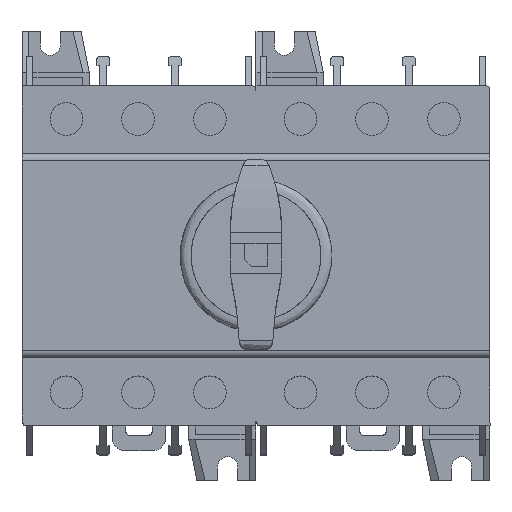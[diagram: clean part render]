
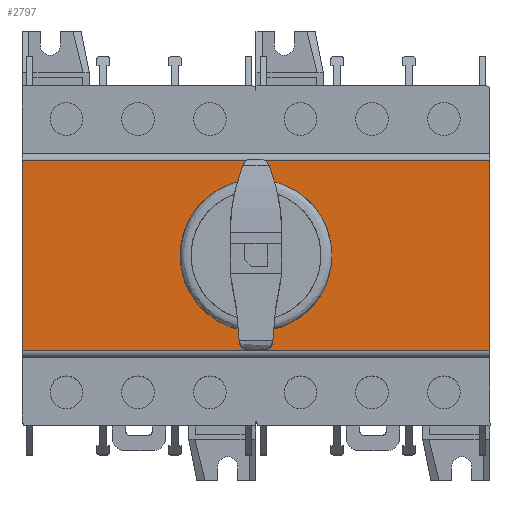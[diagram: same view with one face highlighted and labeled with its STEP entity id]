
A CAD part, top view. The second image highlights one B-rep face of the part: STEP entity #2797.
In plain terms, the highlighted planar face has unit normal (0, 0, 1).
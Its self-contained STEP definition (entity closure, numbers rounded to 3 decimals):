
#25 = EDGE_LOOP ( 'NONE', ( #11486 ) ) ;
#97 = EDGE_CURVE ( 'NONE', #11937, #16992, #855, .T. ) ;
#464 = EDGE_CURVE ( 'NONE', #16565, #7755, #15677, .T. ) ;
#855 = LINE ( 'NONE', #2698, #16375 ) ;
#920 = DIRECTION ( 'NONE',  ( 1., 0., 0. ) ) ;
#1339 = VECTOR ( 'NONE', #16490, 1000. ) ;
#1385 = DIRECTION ( 'NONE',  ( -1., 0., 0. ) ) ;
#1469 = CARTESIAN_POINT ( 'NONE',  ( 103.595, 21.25, 73.4 ) ) ;
#1744 = EDGE_CURVE ( 'NONE', #2784, #2784, #14122, .T. ) ;
#1813 = EDGE_CURVE ( 'NONE', #16992, #7755, #17020, .T. ) ;
#1922 = AXIS2_PLACEMENT_3D ( 'NONE', #3865, #6822, #920 ) ;
#2198 = ORIENTED_EDGE ( 'NONE', *, *, #97, .F. ) ;
#2698 = CARTESIAN_POINT ( 'NONE',  ( 103.595, -21.25, 73.4 ) ) ;
#2784 = VERTEX_POINT ( 'NONE', #8287 ) ;
#2797 = ADVANCED_FACE ( 'NONE', ( #13693, #12053 ), #15783, .T. ) ;
#2936 = CARTESIAN_POINT ( 'NONE',  ( -33.829, -16.949, 73.4 ) ) ;
#2999 = CARTESIAN_POINT ( 'NONE',  ( 0., 16.881, 73.4 ) ) ;
#3865 = CARTESIAN_POINT ( 'NONE',  ( 103.595, 0., 73.4 ) ) ;
#4113 = CARTESIAN_POINT ( 'NONE',  ( -52.2, -21.25, 73.4 ) ) ;
#4149 = DIRECTION ( 'NONE',  ( -1., 0., 0. ) ) ;
#4428 = CARTESIAN_POINT ( 'NONE',  ( 0., -16.949, 73.4 ) ) ;
#4458 = CARTESIAN_POINT ( 'NONE',  ( 52.2, 0., 73.4 ) ) ;
#4528 = CARTESIAN_POINT ( 'NONE',  ( 52.2, 21.25, 73.4 ) ) ;
#5325 = LINE ( 'NONE', #4458, #1339 ) ;
#5740 = ORIENTED_EDGE ( 'NONE', *, *, #1813, .F. ) ;
#6822 = DIRECTION ( 'NONE',  ( 0., 0., 1. ) ) ;
#6945 = CARTESIAN_POINT ( 'NONE',  ( 52.2, -21.25, 73.4 ) ) ;
#7441 = ORIENTED_EDGE ( 'NONE', *, *, #10853, .F. ) ;
#7755 = VERTEX_POINT ( 'NONE', #15204 ) ;
#8158 = CARTESIAN_POINT ( 'NONE',  ( -52.2, 0., 73.4 ) ) ;
#8287 = CARTESIAN_POINT ( 'NONE',  ( 0., 16.881, 73.4 ) ) ;
#8584 = VECTOR ( 'NONE', #4149, 1000. ) ;
#10415 = CARTESIAN_POINT ( 'NONE',  ( -33.829, 16.881, 73.4 ) ) ;
#10479 = CARTESIAN_POINT ( 'NONE',  ( 33.829, -16.949, 73.4 ) ) ;
#10853 = EDGE_CURVE ( 'NONE', #16565, #11937, #5325, .T. ) ;
#11486 = ORIENTED_EDGE ( 'NONE', *, *, #1744, .F. ) ;
#11937 = VERTEX_POINT ( 'NONE', #6945 ) ;
#12053 = FACE_OUTER_BOUND ( 'NONE', #17826, .T. ) ;
#12567 = VECTOR ( 'NONE', #15615, 1000. ) ;
#13693 = FACE_BOUND ( 'NONE', #25, .T. ) ;
#13703 = ORIENTED_EDGE ( 'NONE', *, *, #464, .T. ) ;
#14122 =( BOUNDED_CURVE ( )  B_SPLINE_CURVE ( 3, ( #17920, #10415, #2936, #4428, #10479, #14969, #2999 ),
 .UNSPECIFIED., .T., .F. ) 
 B_SPLINE_CURVE_WITH_KNOTS ( ( 4, 3, 4 ),
 ( 0., 3.142, 6.283 ),
 .UNSPECIFIED. ) 
 CURVE ( )  GEOMETRIC_REPRESENTATION_ITEM ( )  RATIONAL_B_SPLINE_CURVE ( ( 1., 0.333, 0.333, 1., 0.333, 0.333, 1. ) ) 
 REPRESENTATION_ITEM ( '' )  );
#14969 = CARTESIAN_POINT ( 'NONE',  ( 33.829, 16.881, 73.4 ) ) ;
#15204 = CARTESIAN_POINT ( 'NONE',  ( -52.2, 21.25, 73.4 ) ) ;
#15615 = DIRECTION ( 'NONE',  ( 0., 1., 0. ) ) ;
#15677 = LINE ( 'NONE', #1469, #8584 ) ;
#15783 = PLANE ( 'NONE',  #1922 ) ;
#16375 = VECTOR ( 'NONE', #1385, 1000. ) ;
#16490 = DIRECTION ( 'NONE',  ( 0., -1., 0. ) ) ;
#16565 = VERTEX_POINT ( 'NONE', #4528 ) ;
#16992 = VERTEX_POINT ( 'NONE', #4113 ) ;
#17020 = LINE ( 'NONE', #8158, #12567 ) ;
#17826 = EDGE_LOOP ( 'NONE', ( #7441, #13703, #5740, #2198 ) ) ;
#17920 = CARTESIAN_POINT ( 'NONE',  ( 0., 16.881, 73.4 ) ) ;
